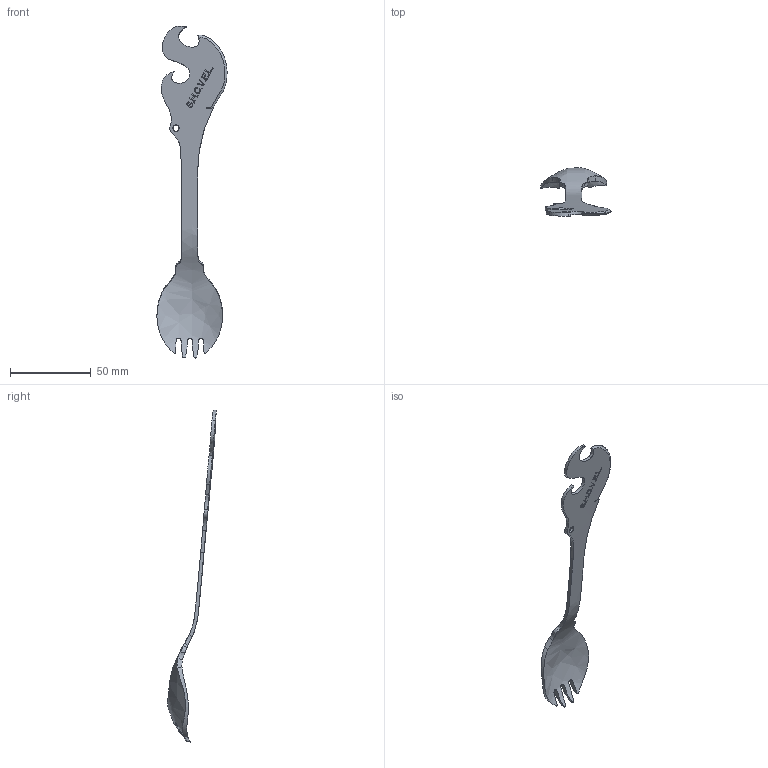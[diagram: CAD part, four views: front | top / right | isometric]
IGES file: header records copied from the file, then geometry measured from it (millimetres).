
Start section:  PTC IGES file: spork_v1.igs
Global section: file name: spork_v1.igs; native system: Creo Parametric by Parametric Technology Corporation; preprocessor: 2012060; author: paul.smith; organization: Unknown; date: 20130531.144553; units: inch
Bounding box: 43.39 x 30.39 x 205.57 mm (x, y, z)
Volume: 11963.8 mm3; surface area: 10254.9 mm2
Topology: 1 solids, 1 shells, 229 faces, 640 edges, 426 vertices
Faces by surface type: bspline 220, revolution 5, extrusion 4
